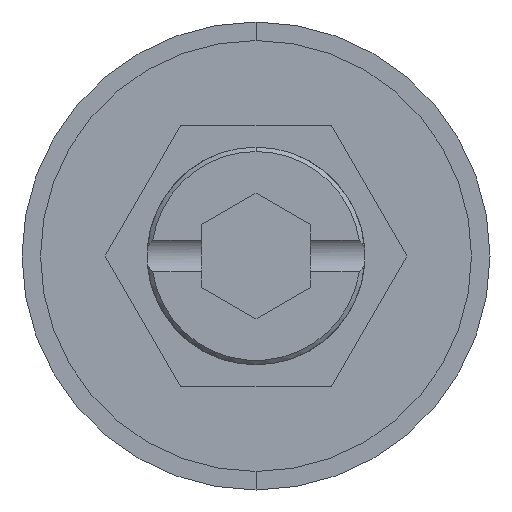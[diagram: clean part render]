
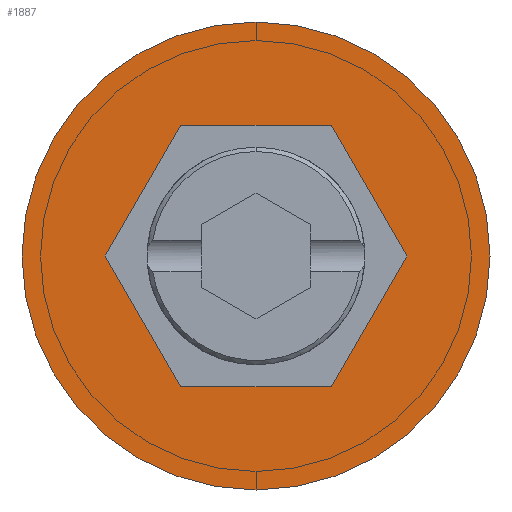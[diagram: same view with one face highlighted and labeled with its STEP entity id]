
A CAD part, front view. The second image highlights one B-rep face of the part: STEP entity #1887.
In plain terms, the highlighted planar face has unit normal (0, -1, 0).
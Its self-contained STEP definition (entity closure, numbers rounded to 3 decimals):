
#31 = CARTESIAN_POINT ( 'NONE',  ( 3.464, 0., 6. ) ) ;
#55 = CARTESIAN_POINT ( 'NONE',  ( -6.928, 0., 0. ) ) ;
#59 = EDGE_CURVE ( 'NONE', #2001, #2069, #1457, .T. ) ;
#80 = DIRECTION ( 'NONE',  ( 0., 0., -1. ) ) ;
#82 = AXIS2_PLACEMENT_3D ( 'NONE', #1207, #1290, #1312 ) ;
#110 = CARTESIAN_POINT ( 'NONE',  ( 6.928, 0., 0. ) ) ;
#160 = LINE ( 'NONE', #888, #182 ) ;
#175 = CARTESIAN_POINT ( 'NONE',  ( -3.464, 0., 6. ) ) ;
#180 = ORIENTED_EDGE ( 'NONE', *, *, #1713, .F. ) ;
#182 = VECTOR ( 'NONE', #1928, 1000. ) ;
#192 = CIRCLE ( 'NONE', #779, 10.75 ) ;
#195 = EDGE_CURVE ( 'NONE', #781, #874, #1385, .T. ) ;
#211 = CARTESIAN_POINT ( 'NONE',  ( 6.928, 0., 0. ) ) ;
#333 = FACE_BOUND ( 'NONE', #869, .T. ) ;
#340 = FACE_OUTER_BOUND ( 'NONE', #1151, .T. ) ;
#371 = VECTOR ( 'NONE', #1026, 1000. ) ;
#373 = LINE ( 'NONE', #824, #371 ) ;
#388 = VECTOR ( 'NONE', #2064, 1000. ) ;
#389 = ORIENTED_EDGE ( 'NONE', *, *, #1461, .F. ) ;
#463 = VECTOR ( 'NONE', #883, 1000. ) ;
#481 = CARTESIAN_POINT ( 'NONE',  ( 0., 0., 0. ) ) ;
#486 = LINE ( 'NONE', #211, #463 ) ;
#518 = DIRECTION ( 'NONE',  ( 0.5, 0., 0.866 ) ) ;
#599 = CARTESIAN_POINT ( 'NONE',  ( 3.464, 0., -6. ) ) ;
#722 = VECTOR ( 'NONE', #1938, 1000. ) ;
#732 = LINE ( 'NONE', #1936, #722 ) ;
#779 = AXIS2_PLACEMENT_3D ( 'NONE', #481, #1004, #80 ) ;
#781 = VERTEX_POINT ( 'NONE', #1533 ) ;
#824 = CARTESIAN_POINT ( 'NONE',  ( -3.464, 0., 6. ) ) ;
#869 = EDGE_LOOP ( 'NONE', ( #1505, #2228, #1242, #389, #180, #2048 ) ) ;
#874 = VERTEX_POINT ( 'NONE', #1546 ) ;
#883 = DIRECTION ( 'NONE',  ( -0.5, 0., 0.866 ) ) ;
#888 = CARTESIAN_POINT ( 'NONE',  ( -3.464, 0., -6. ) ) ;
#930 = CARTESIAN_POINT ( 'NONE',  ( 0., 0., 0. ) ) ;
#935 = DIRECTION ( 'NONE',  ( 0., -1., 0. ) ) ;
#938 = DIRECTION ( 'NONE',  ( 0., 0., -1. ) ) ;
#1004 = DIRECTION ( 'NONE',  ( 0., -1., 0. ) ) ;
#1026 = DIRECTION ( 'NONE',  ( -0.5, 0., -0.866 ) ) ;
#1151 = EDGE_LOOP ( 'NONE', ( #2012, #2045 ) ) ;
#1207 = CARTESIAN_POINT ( 'NONE',  ( 0., 0., 0. ) ) ;
#1222 = PLANE ( 'NONE',  #82 ) ;
#1242 = ORIENTED_EDGE ( 'NONE', *, *, #1825, .F. ) ;
#1290 = DIRECTION ( 'NONE',  ( 0., -1., 0. ) ) ;
#1312 = DIRECTION ( 'NONE',  ( 0., 0., -1. ) ) ;
#1349 = AXIS2_PLACEMENT_3D ( 'NONE', #930, #935, #938 ) ;
#1385 = CIRCLE ( 'NONE', #1349, 10.75 ) ;
#1451 = VECTOR ( 'NONE', #518, 1000. ) ;
#1457 = LINE ( 'NONE', #599, #1451 ) ;
#1461 = EDGE_CURVE ( 'NONE', #2052, #2234, #732, .T. ) ;
#1505 = ORIENTED_EDGE ( 'NONE', *, *, #2023, .F. ) ;
#1533 = CARTESIAN_POINT ( 'NONE',  ( 0., 0., 10.75 ) ) ;
#1546 = CARTESIAN_POINT ( 'NONE',  ( 0., 0., -10.75 ) ) ;
#1713 = EDGE_CURVE ( 'NONE', #2069, #2052, #486, .T. ) ;
#1825 = EDGE_CURVE ( 'NONE', #2234, #2125, #373, .T. ) ;
#1887 = ADVANCED_FACE ( 'NONE', ( #333, #340 ), #1222, .T. ) ;
#1928 = DIRECTION ( 'NONE',  ( 1., 0., 0. ) ) ;
#1936 = CARTESIAN_POINT ( 'NONE',  ( 3.464, 0., 6. ) ) ;
#1938 = DIRECTION ( 'NONE',  ( -1., 0., 0. ) ) ;
#1978 = LINE ( 'NONE', #2075, #388 ) ;
#1986 = EDGE_CURVE ( 'NONE', #874, #781, #192, .T. ) ;
#2001 = VERTEX_POINT ( 'NONE', #2036 ) ;
#2012 = ORIENTED_EDGE ( 'NONE', *, *, #1986, .T. ) ;
#2023 = EDGE_CURVE ( 'NONE', #2147, #2001, #160, .T. ) ;
#2036 = CARTESIAN_POINT ( 'NONE',  ( 3.464, 0., -6. ) ) ;
#2045 = ORIENTED_EDGE ( 'NONE', *, *, #195, .T. ) ;
#2048 = ORIENTED_EDGE ( 'NONE', *, *, #59, .F. ) ;
#2052 = VERTEX_POINT ( 'NONE', #31 ) ;
#2064 = DIRECTION ( 'NONE',  ( 0.5, 0., -0.866 ) ) ;
#2069 = VERTEX_POINT ( 'NONE', #110 ) ;
#2075 = CARTESIAN_POINT ( 'NONE',  ( -6.928, 0., 0. ) ) ;
#2125 = VERTEX_POINT ( 'NONE', #55 ) ;
#2129 = CARTESIAN_POINT ( 'NONE',  ( -3.464, 0., -6. ) ) ;
#2147 = VERTEX_POINT ( 'NONE', #2129 ) ;
#2165 = EDGE_CURVE ( 'NONE', #2125, #2147, #1978, .T. ) ;
#2228 = ORIENTED_EDGE ( 'NONE', *, *, #2165, .F. ) ;
#2234 = VERTEX_POINT ( 'NONE', #175 ) ;
